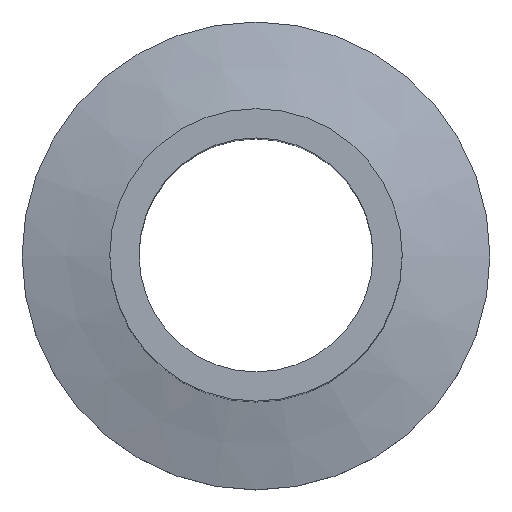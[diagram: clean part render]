
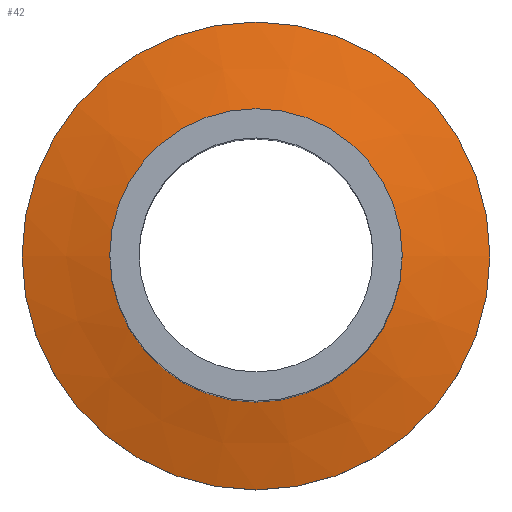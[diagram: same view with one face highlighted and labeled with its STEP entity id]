
A CAD part, top view. The second image highlights one B-rep face of the part: STEP entity #42.
In plain terms, the highlighted conical face has half-angle 75 degrees and reference radius 20 mm.
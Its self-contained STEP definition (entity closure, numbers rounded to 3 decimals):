
#42 = ADVANCED_FACE( '', ( #85, #86 ), #87, .T. );
#85 = FACE_BOUND( '', #124, .T. );
#86 = FACE_OUTER_BOUND( '', #125, .T. );
#87 = CONICAL_SURFACE( '', #126, 20., 1.309 );
#124 = EDGE_LOOP( '', ( #167 ) );
#125 = EDGE_LOOP( '', ( #168 ) );
#126 = AXIS2_PLACEMENT_3D( '', #169, #170, #171 );
#167 = ORIENTED_EDGE( '', *, *, #186, .F. );
#168 = ORIENTED_EDGE( '', *, *, #190, .T. );
#169 = CARTESIAN_POINT( '', ( 0., 0., 3. ) );
#170 = DIRECTION( '', ( 0., 0., -1. ) );
#171 = DIRECTION( '', ( -1., 0., 0. ) );
#186 = EDGE_CURVE( '', #203, #203, #204, .T. );
#190 = EDGE_CURVE( '', #209, #209, #210, .T. );
#203 = VERTEX_POINT( '', #227 );
#204 = CIRCLE( '', #228, 12.5 );
#209 = VERTEX_POINT( '', #233 );
#210 = CIRCLE( '', #234, 20. );
#227 = CARTESIAN_POINT( '', ( 12.5, 0., 5.01 ) );
#228 = AXIS2_PLACEMENT_3D( '', #251, #252, #253 );
#233 = CARTESIAN_POINT( '', ( 20., 0., 3. ) );
#234 = AXIS2_PLACEMENT_3D( '', #257, #258, #259 );
#251 = CARTESIAN_POINT( '', ( 0., 0., 5.01 ) );
#252 = DIRECTION( '', ( 0., 0., 1. ) );
#253 = DIRECTION( '', ( 1., 0., 0. ) );
#257 = CARTESIAN_POINT( '', ( 0., 0., 3. ) );
#258 = DIRECTION( '', ( 0., 0., 1. ) );
#259 = DIRECTION( '', ( 1., 0., 0. ) );
